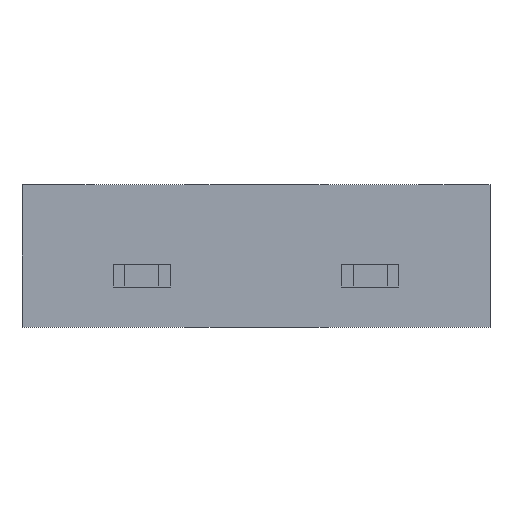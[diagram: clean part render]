
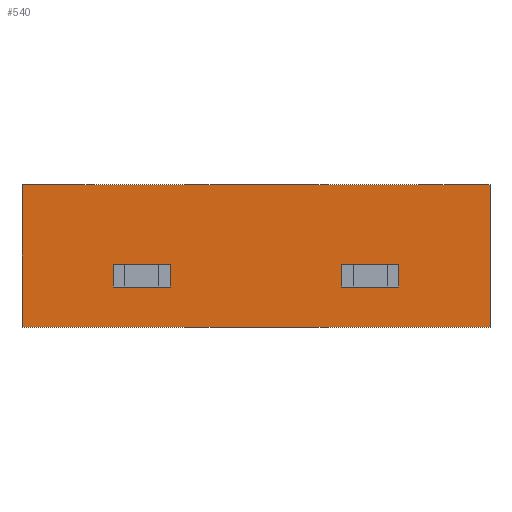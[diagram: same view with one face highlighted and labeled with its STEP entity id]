
A CAD part, front view. The second image highlights one B-rep face of the part: STEP entity #540.
In plain terms, the highlighted planar face has unit normal (0, -1, 0).
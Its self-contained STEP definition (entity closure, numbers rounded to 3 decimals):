
#33=FACE_OUTER_BOUND('',#65,.T.);
#65=EDGE_LOOP('',(#390,#391,#392,#393));
#103=LINE('',#775,#171);
#110=LINE('',#794,#178);
#114=LINE('',#800,#182);
#115=LINE('',#801,#183);
#171=VECTOR('',#631,3.18);
#178=VECTOR('',#646,3.18);
#182=VECTOR('',#654,10.41);
#183=VECTOR('',#655,10.41);
#240=VERTEX_POINT('',#772);
#241=VERTEX_POINT('',#774);
#248=VERTEX_POINT('',#791);
#249=VERTEX_POINT('',#793);
#293=EDGE_CURVE('',#241,#240,#103,.T.);
#302=EDGE_CURVE('',#248,#249,#110,.T.);
#306=EDGE_CURVE('',#248,#241,#114,.T.);
#307=EDGE_CURVE('',#249,#240,#115,.T.);
#390=ORIENTED_EDGE('',*,*,#306,.T.);
#391=ORIENTED_EDGE('',*,*,#293,.T.);
#392=ORIENTED_EDGE('',*,*,#307,.F.);
#393=ORIENTED_EDGE('',*,*,#302,.F.);
#509=PLANE('',#581);
#540=ADVANCED_FACE('',(#33),#509,.T.);
#581=AXIS2_PLACEMENT_3D('',#799,#652,#653);
#631=DIRECTION('',(0.,0.,1.));
#646=DIRECTION('',(0.,0.,1.));
#652=DIRECTION('center_axis',(0.,-1.,0.));
#653=DIRECTION('ref_axis',(1.,0.,0.));
#654=DIRECTION('',(1.,0.,0.));
#655=DIRECTION('',(1.,0.,0.));
#772=CARTESIAN_POINT('',(10.41,0.,3.18));
#774=CARTESIAN_POINT('',(10.41,0.,0.));
#775=CARTESIAN_POINT('',(10.41,0.,0.));
#791=CARTESIAN_POINT('',(0.,0.,0.));
#793=CARTESIAN_POINT('',(0.,0.,3.18));
#794=CARTESIAN_POINT('',(0.,0.,0.));
#799=CARTESIAN_POINT('Origin',(0.,0.,0.));
#800=CARTESIAN_POINT('',(0.,0.,0.));
#801=CARTESIAN_POINT('',(0.,0.,3.18));
